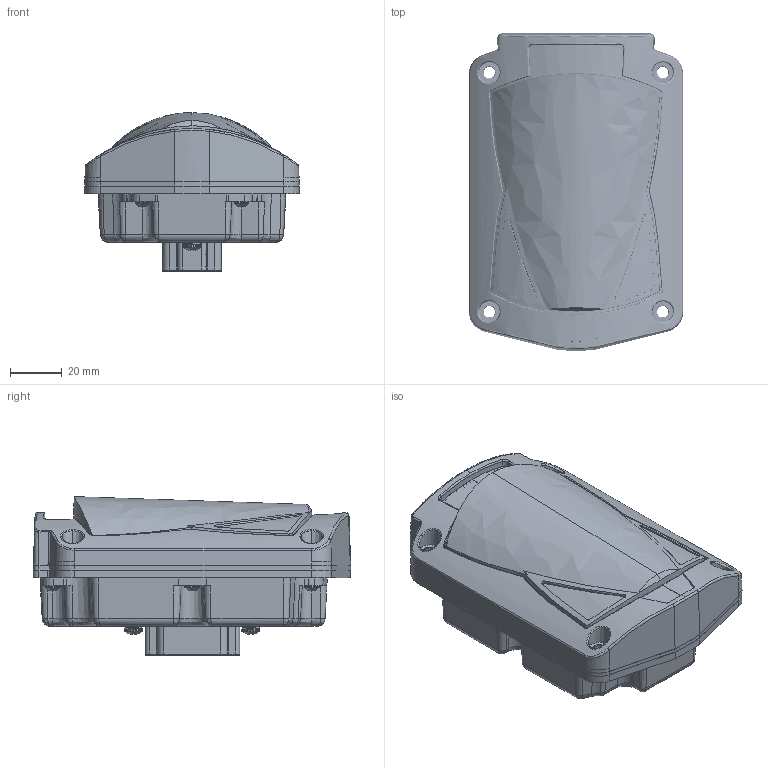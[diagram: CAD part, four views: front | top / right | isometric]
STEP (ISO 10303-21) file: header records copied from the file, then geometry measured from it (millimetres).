
FILE_DESCRIPTION (( 'STEP AP214' ), '1' );
FILE_NAME ('3050852-xx-xx-xx.STEP', '2021-06-22T12:20:43', ( '' ), ( '' ), 'SwSTEP 2.0', 'SolidWorks 2019', '' );
FILE_SCHEMA (( 'AUTOMOTIVE_DESIGN' ));
Length unit declared in the file: inch
Products named in the file (21): 3050852-xx-xx-xx; 3030793_ASM; 3007674; 4008256; 4050999; 3102310-XX; 3007541-XX-XX_ASM; 4050900; 4050921; 3007675-XX; 4008026; 3002851; 4090177_ASM; 3007541-01; 3007676; 4008255; 3007681; 4051010; 3007541-01_2; 3007541-02
Assembly tree (28 placements, depth 4):
  3050852-xx-xx-xx
    3030793_ASM
      3007674
      3007676
      3007681
      4050921  x2
      4050900  x2
      4051010  x6
      4090177_ASM
        4050999  x2
        4008256
        4008255
        4008026
      3002851
    3007675-XX
    3007541-XX-XX_ASM
      3007541-01
        3007541-01
        3007541-01_2
      3007541-02
    3102310-XX
Bounding box: 82.66 x 122.38 x 61.19 mm (x, y, z)
Surface area: 106527.4 mm2 (no closed solid volume)
Topology: 0 solids, 24 shells, 3640 faces, 9955 edges, 6413 vertices
Faces by surface type: plane 1209, cylinder 1127, bspline 986, cone 318
Entity records: 131916 total; most frequent: CARTESIAN_POINT 71867, ORIENTED_EDGE 14106, DIRECTION 9907, EDGE_CURVE 7053, VERTEX_POINT 4542, LINE 3421, VECTOR 3421, AXIS2_PLACEMENT_3D 3243
